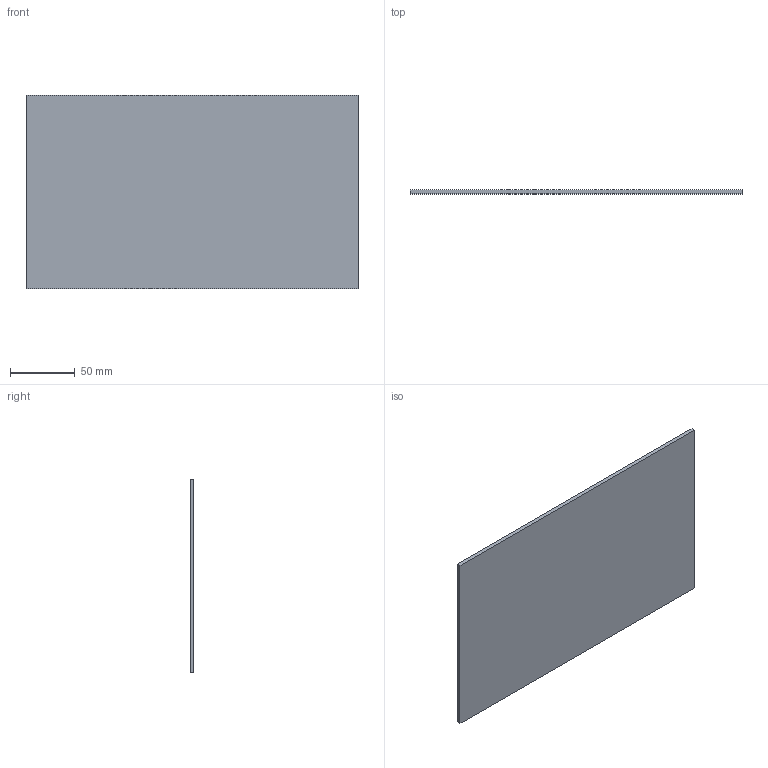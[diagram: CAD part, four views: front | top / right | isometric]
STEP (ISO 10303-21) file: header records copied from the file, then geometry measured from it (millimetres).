
FILE_DESCRIPTION (( 'STEP AP203' ), '1' );
FILE_NAME ('V2_REF_chassis_255p8x149.STEP', '2026-09-18T10:18:12', ( '15300530775@163.com' ), ( '' ), 'SwSTEP 2.0', 'SolidWorks 2026', '' );
FILE_SCHEMA (( 'CONFIG_CONTROL_DESIGN' ));
Length unit declared in the file: millimetre
Products named in the file (1): V2_REF_chassis_255p8x149
Bounding box: 255.8 x 3 x 149 mm (x, y, z)
Volume: 114342.6 mm3; surface area: 78657.2 mm2
Topology: 1 solids, 1 shells, 6 faces, 12 edges, 8 vertices
Faces by surface type: plane 6
Entity records: 233 total; most frequent: CARTESIAN_POINT 27, DIRECTION 26, ORIENTED_EDGE 24, EDGE_CURVE 12, LINE 12, VECTOR 12, PERSON_AND_ORGANIZATION 8, VERTEX_POINT 8
